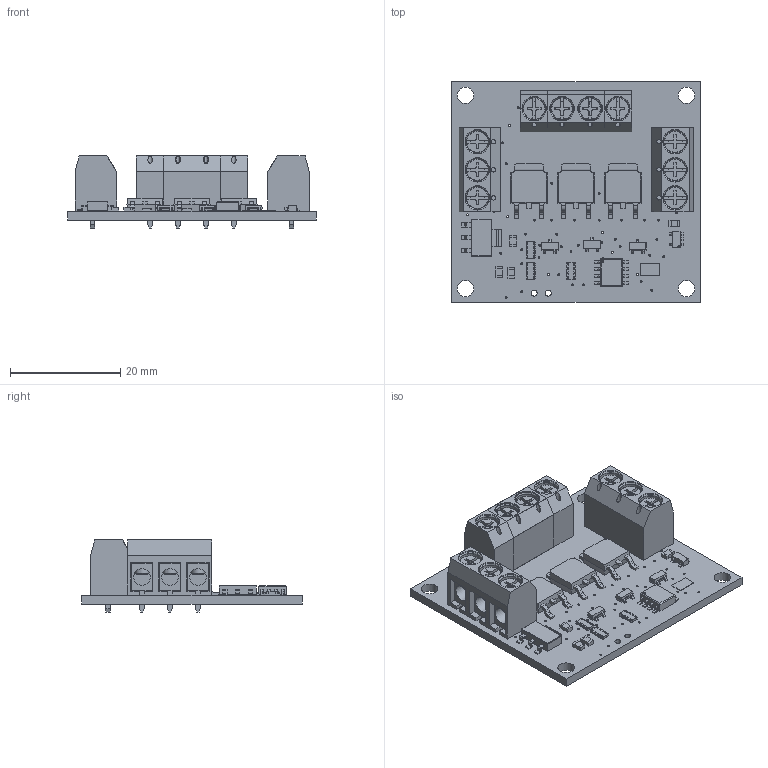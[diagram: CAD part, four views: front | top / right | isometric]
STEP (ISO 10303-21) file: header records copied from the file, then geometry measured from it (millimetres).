
FILE_DESCRIPTION(/* description */ (''),/* implementation_level */ '2;1');
FILE_NAME(/* name */ 'nled-ws2811fet-v1b-populated.step',/* time_stamp */ '2022-12-02T13:35:37-06:00',/* author */ (''),/* organization */ (''),/* preprocessor_version */ 'ST-DEVELOPER v19.2',/* originating_system */ 'Autodesk Translation Framework v11.17.0.187',/* authorisation */ '');
FILE_SCHEMA (('AUTOMOTIVE_DESIGN { 1 0 10303 214 3 1 1 }'));
Products named in the file (38): nled-ws2811fet-v1b-pnp; Board; Packages; SJ; SOIC-8; SOT-23-5; SOT223; 0603-ARV (1); 0603-ARV (2); 0603-ARV; MOLEXKK2PWR-SM; W237-133; 395443002; _155; _532; _752; 395443002_2; _800; 395443002_3; DPAK-2PIN; W237-133 (1); 395443002 (1); _155 (1); _532 (1); _752 (1); 395443002_2 (1); _800 (1); 395443002_3 (1); W237-4P; 395443002 (2); _155 (2); _532 (2); _752 (2); 395443002_2 (2); _800 (2); 395443002_3 (2); C0805; SOT23
Assembly tree (44 placements, depth 4):
  nled-ws2811fet-v1b-pnp
    Board
    Packages
      SJ
      SOIC-8
      SOT-23-5
      SOT223
      0603-ARV (1)
      0603-ARV (2)
      0603-ARV
      MOLEXKK2PWR-SM
      W237-133
        395443002
        _155
        _532
        _752
        395443002_2
        _800
        395443002_3
      DPAK-2PIN  x3
      W237-133 (1)
        395443002 (1)
        _155 (1)
        _532 (1)
        _752 (1)
        395443002_2 (1)
        _800 (1)
        395443002_3 (1)
      W237-4P
        395443002 (2)
        _155 (2)
        _532 (2)
        _752 (2)
        395443002_2 (2)
        _800 (2)
        395443002_3 (2)
      C0805  x4
      SOT23  x3
Bounding box: 45 x 40 x 13.05 mm (x, y, z)
Volume: 7489.6 mm3; surface area: 14388.4 mm2
Topology: 54 solids, 54 shells, 2315 faces, 6148 edges, 4032 vertices
Faces by surface type: plane 1569, cylinder 470, bspline 117, torus 90, cone 45, sphere 24
Full cylindrical faces by diameter (mm): 0.3 x2, 0.35 x63, 0.8 x15, 1.1 x2, 1.194 x10, 2.05 x15, 2.5 x15, 3 x19, 3.048 x15, 4.42 x30
Entity records: 68229 total; most frequent: CARTESIAN_POINT 13202, ORIENTED_EDGE 10948, DIRECTION 10668, EDGE_CURVE 5474, LINE 3900, VECTOR 3900, VERTEX_POINT 3596, AXIS2_PLACEMENT_3D 3384
